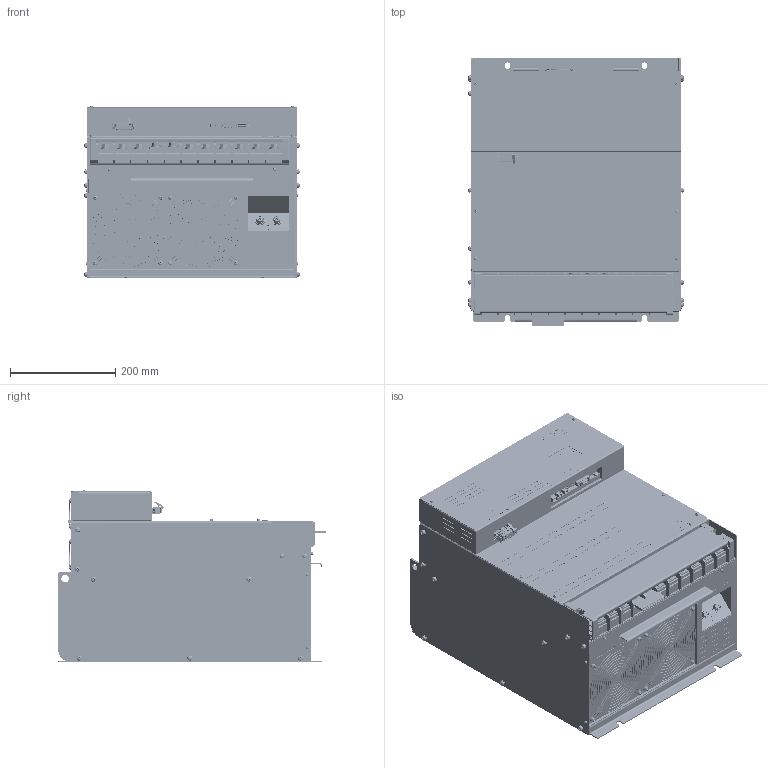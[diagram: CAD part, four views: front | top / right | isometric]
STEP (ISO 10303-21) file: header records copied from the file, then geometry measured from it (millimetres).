
FILE_DESCRIPTION (( 'STEP AP203' ), '1' );
FILE_NAME ('NCR-HE3_553#SE-84831.STEP', '2021-07-08T07:29:19', ( '' ), ( '' ), 'SwSTEP 2.0', 'SolidWorks 2018', '' );
FILE_SCHEMA (( 'CONFIG_CONTROL_DESIGN' ));
Products named in the file (1): NCR-HE3_553#SE-84831
Bounding box: 409.06 x 508 x 327.95 mm (x, y, z)
Volume: 50205600.1 mm3; surface area: 1554836.1 mm2
Topology: 4 solids, 44 shells, 18417 faces, 50899 edges, 32837 vertices
Faces by surface type: plane 12023, cylinder 2929, bspline 1918, cone 1207, torus 250, sphere 90
Entity records: 649954 total; most frequent: CARTESIAN_POINT 186967, ORIENTED_EDGE 101586, DIRECTION 88853, EDGE_CURVE 50793, LINE 34899, VECTOR 34899, VERTEX_POINT 32837, AXIS2_PLACEMENT_3D 26977
